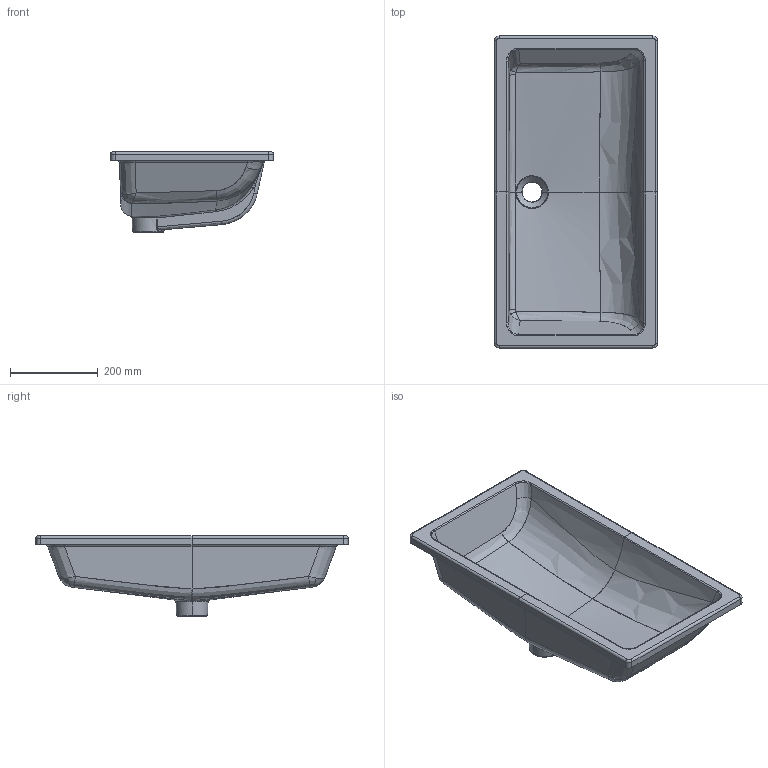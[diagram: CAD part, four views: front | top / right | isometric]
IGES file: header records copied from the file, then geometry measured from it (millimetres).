
Start section: START RECORD GO HERE.
Global section: file name: 2036_3D Lavabo sottopiano.igs; native system: DASSAULT SYSTEMES CATIA V5 R19 - www.3ds.com; preprocessor: CATIA Version 5 Release 19 SP 5 ; author: gioge; organization: LAPTOP-G94B6G74; date: 20200622.115338; units: millimetre
Bounding box: 370 x 710 x 182.5 mm (x, y, z)
Surface area: 850914.8 mm2 (no closed solid volume)
Topology: 0 solids, 0 shells, 150 faces, 674 edges, 668 vertices
Faces by surface type: bspline 78, revolution 48, plane 20, extrusion 4
